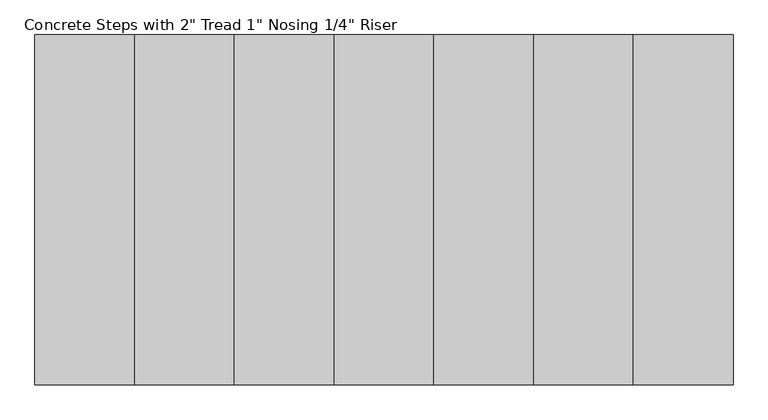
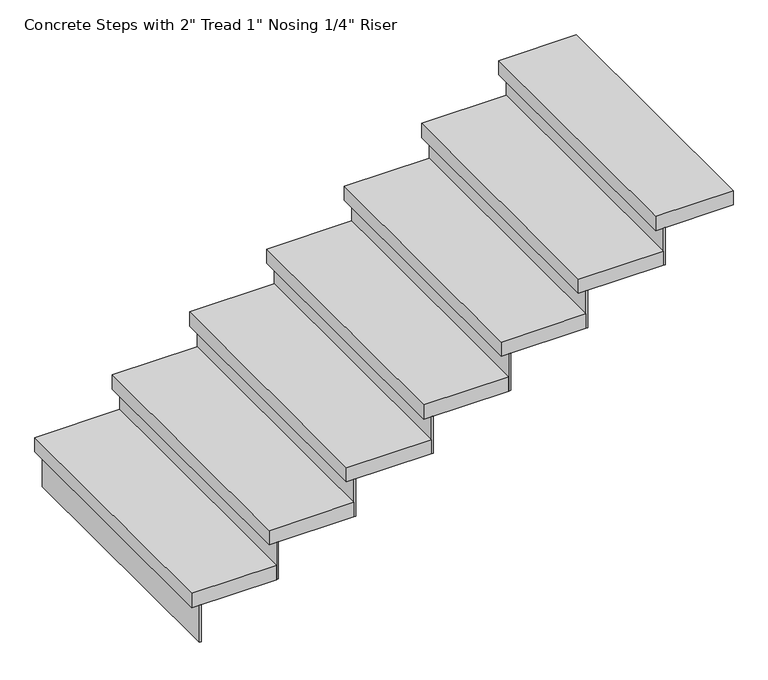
"""IFC4 building model written with IfcOpenShell, lengths in millimetres: stair flight geometry."""

from ifc_helpers import new_model, si_unit, frame, origin, place, context, project, spatial, polyline, outline, extrude, source, transform, mapped, element, save


def stair_flight_31c4a1ba(model_context):
    return source(origin(), model_context, "Body", "SweptSolid", [
        extrude(outline(polyline([(6350.1221922, 22874.7406645), (6343.7721922, 22874.7406645), (6343.7721922, 23789.1406645), (6350.1221922, 23789.1406645), (6350.1221922, 22874.7406645)])), frame((0.0, 0.0, 2069.5478261), z_axis=(0.0, 0.0, 1.0), x_axis=(1.0, 0.0, 0.0)), (0.0, 0.0, 1.0), 132.5217391),
        extrude(outline(polyline([(6604.1221922, 23789.1406645), (6604.1221922, 22874.7406645), (6318.3721922, 22874.7406645), (6318.3721922, 23789.1406645), (6604.1221922, 23789.1406645)])), frame((0.0, 0.0, 2202.0695652), z_axis=(0.0, 0.0, 1.0), x_axis=(1.0, 0.0, 0.0)), (0.0, 0.0, 1.0), 50.8),
        extrude(outline(polyline([(6610.4721922, 22874.7406645), (6604.1221922, 22874.7406645), (6604.1221922, 23789.1406645), (6610.4721922, 23789.1406645), (6610.4721922, 22874.7406645)])), frame((0.0, 0.0, 2202.0695652), z_axis=(0.0, 0.0, 1.0), x_axis=(1.0, 0.0, 0.0)), (0.0, 0.0, 1.0), 132.5217391),
        extrude(outline(polyline([(6864.4721922, 23789.1406645), (6864.4721922, 22874.7406645), (6578.7221922, 22874.7406645), (6578.7221922, 23789.1406645), (6864.4721922, 23789.1406645)])), frame((0.0, 0.0, 2334.5913043), z_axis=(0.0, 0.0, 1.0), x_axis=(1.0, 0.0, 0.0)), (0.0, 0.0, 1.0), 50.8),
        extrude(outline(polyline([(6870.8221922, 22874.7406645), (6864.4721922, 22874.7406645), (6864.4721922, 23789.1406645), (6870.8221922, 23789.1406645), (6870.8221922, 22874.7406645)])), frame((0.0, 0.0, 2334.5913043), z_axis=(0.0, 0.0, 1.0), x_axis=(1.0, 0.0, 0.0)), (0.0, 0.0, 1.0), 132.5217391),
        extrude(outline(polyline([(7124.8221922, 23789.1406645), (7124.8221922, 22874.7406645), (6839.0721922, 22874.7406645), (6839.0721922, 23789.1406645), (7124.8221922, 23789.1406645)])), frame((0.0, 0.0, 2467.1130435), z_axis=(0.0, 0.0, 1.0), x_axis=(1.0, 0.0, 0.0)), (0.0, 0.0, 1.0), 50.8),
        extrude(outline(polyline([(7131.1721922, 22874.7406645), (7124.8221922, 22874.7406645), (7124.8221922, 23789.1406645), (7131.1721922, 23789.1406645), (7131.1721922, 22874.7406645)])), frame((0.0, 0.0, 2467.1130435), z_axis=(0.0, 0.0, 1.0), x_axis=(1.0, 0.0, 0.0)), (0.0, 0.0, 1.0), 132.5217391),
        extrude(outline(polyline([(7385.1721922, 23789.1406645), (7385.1721922, 22874.7406645), (7099.4221922, 22874.7406645), (7099.4221922, 23789.1406645), (7385.1721922, 23789.1406645)])), frame((0.0, 0.0, 2599.6347826), z_axis=(0.0, 0.0, 1.0), x_axis=(1.0, 0.0, 0.0)), (0.0, 0.0, 1.0), 50.8),
        extrude(outline(polyline([(7391.5221922, 22874.7406645), (7385.1721922, 22874.7406645), (7385.1721922, 23789.1406645), (7391.5221922, 23789.1406645), (7391.5221922, 22874.7406645)])), frame((0.0, 0.0, 2599.6347826), z_axis=(0.0, 0.0, 1.0), x_axis=(1.0, 0.0, 0.0)), (0.0, 0.0, 1.0), 132.5217391),
        extrude(outline(polyline([(7645.5221922, 23789.1406645), (7645.5221922, 22874.7406645), (7359.7721922, 22874.7406645), (7359.7721922, 23789.1406645), (7645.5221922, 23789.1406645)])), frame((0.0, 0.0, 2732.1565217), z_axis=(0.0, 0.0, 1.0), x_axis=(1.0, 0.0, 0.0)), (0.0, 0.0, 1.0), 50.8),
        extrude(outline(polyline([(7651.8721922, 22874.7406645), (7645.5221922, 22874.7406645), (7645.5221922, 23789.1406645), (7651.8721922, 23789.1406645), (7651.8721922, 22874.7406645)])), frame((0.0, 0.0, 2732.1565217), z_axis=(0.0, 0.0, 1.0), x_axis=(1.0, 0.0, 0.0)), (0.0, 0.0, 1.0), 132.5217391),
        extrude(outline(polyline([(7905.8721922, 23789.1406645), (7905.8721922, 22874.7406645), (7620.1221922, 22874.7406645), (7620.1221922, 23789.1406645), (7905.8721922, 23789.1406645)])), frame((0.0, 0.0, 2864.6782609), z_axis=(0.0, 0.0, 1.0), x_axis=(1.0, 0.0, 0.0)), (0.0, 0.0, 1.0), 50.8),
        extrude(outline(polyline([(7912.2221922, 22874.7406645), (7905.8721922, 22874.7406645), (7905.8721922, 23789.1406645), (7912.2221922, 23789.1406645), (7912.2221922, 22874.7406645)])), frame((0.0, 0.0, 2864.6782609), z_axis=(0.0, 0.0, 1.0), x_axis=(1.0, 0.0, 0.0)), (0.0, 0.0, 1.0), 132.5217391),
        extrude(outline(polyline([(8140.8221922, 23789.1406645), (8140.8221922, 22874.7406645), (7880.4721922, 22874.7406645), (7880.4721922, 23789.1406645), (8140.8221922, 23789.1406645)])), frame((0.0, 0.0, 2997.2), z_axis=(0.0, 0.0, 1.0), x_axis=(1.0, 0.0, 0.0)), (0.0, 0.0, 1.0), 50.8),
    ])


if __name__ == "__main__":
    model = new_model("IFC4")
    model_context = context("Model", 3, world=origin())
    ifc_project = project(units=[si_unit("LENGTHUNIT", "METRE", prefix="MILLI")], contexts=[model_context])
    site = spatial("IfcSite", under=ifc_project)
    building = spatial("IfcBuilding", under=site)
    placement = place(None, origin())
    stair_flight_shape = stair_flight_31c4a1ba(model_context)
    element("IfcStairFlight", 1, ObjectType="Concrete Steps with 2\" Tread 1\" Nosing 1/4\" Riser", at=placement, inside=building, context=model_context, shape_type="MappedRepresentation", body=[
        mapped(stair_flight_shape, transform((0.0, 0.0, 0.0), x_axis=(1.0, 0.0, 0.0), y_axis=(0.0, 1.0, 0.0), z_axis=(0.0, 0.0, 1.0))),
    ])
    save(model, "model.ifc")
